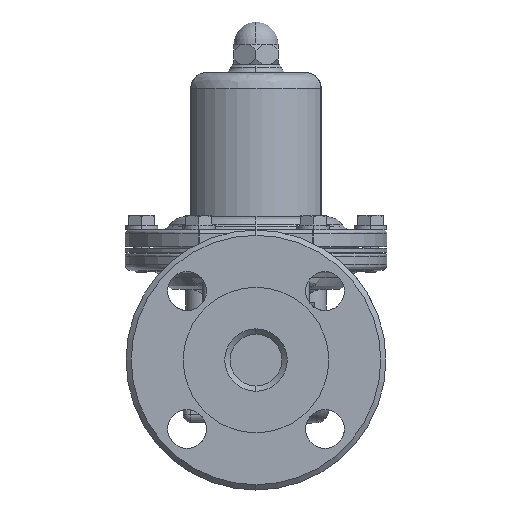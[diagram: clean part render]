
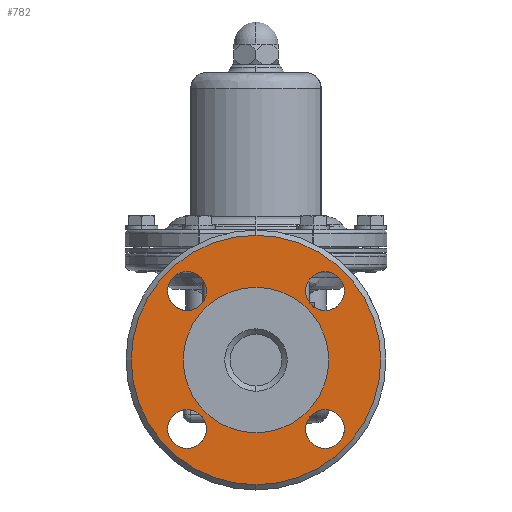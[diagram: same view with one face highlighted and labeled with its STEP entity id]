
A CAD part, left-side view. The second image highlights one B-rep face of the part: STEP entity #782.
In plain terms, the highlighted planar face has unit normal (-1, 0, 0).
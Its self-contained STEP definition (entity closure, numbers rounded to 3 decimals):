
#782=ADVANCED_FACE('',(#4565,#4566,#4567,#4568,#4569,#4570),#4564,.F.);
#4564=PLANE('',#10744);
#4565=FACE_OUTER_BOUND('',#10745,.T.);
#4566=FACE_BOUND('',#10746,.T.);
#4567=FACE_BOUND('',#10747,.T.);
#4568=FACE_BOUND('',#10748,.T.);
#4569=FACE_BOUND('',#10749,.T.);
#4570=FACE_BOUND('',#10750,.T.);
#10741=CARTESIAN_POINT('',(-82.,-93.138,58.));
#10742=DIRECTION('',(1.,0.,0.));
#10743=DIRECTION('',(0.,0.,-1.));
#10744=AXIS2_PLACEMENT_3D('',#10741,#10742,#10743);
#10745=EDGE_LOOP('',(#14886,#14887));
#10746=EDGE_LOOP('',(#14888,#14889));
#10747=EDGE_LOOP('',(#14890,#14891));
#10748=EDGE_LOOP('',(#14892,#14893));
#10749=EDGE_LOOP('',(#14894,#14895));
#10750=EDGE_LOOP('',(#14896,#14897));
#14886=ORIENTED_EDGE('',*,*,#17143,.T.);
#14887=ORIENTED_EDGE('',*,*,#17144,.T.);
#14888=ORIENTED_EDGE('',*,*,#17145,.F.);
#14889=ORIENTED_EDGE('',*,*,#17146,.F.);
#14890=ORIENTED_EDGE('',*,*,#17147,.F.);
#14891=ORIENTED_EDGE('',*,*,#17148,.F.);
#14892=ORIENTED_EDGE('',*,*,#17149,.F.);
#14893=ORIENTED_EDGE('',*,*,#17150,.F.);
#14894=ORIENTED_EDGE('',*,*,#17151,.F.);
#14895=ORIENTED_EDGE('',*,*,#17152,.F.);
#14896=ORIENTED_EDGE('',*,*,#17153,.F.);
#14897=ORIENTED_EDGE('',*,*,#17154,.F.);
#17143=EDGE_CURVE('',#24323,#24324,#24325,.T.);
#17144=EDGE_CURVE('',#24324,#24323,#24331,.T.);
#17145=EDGE_CURVE('',#24337,#24338,#24339,.T.);
#17146=EDGE_CURVE('',#24338,#24337,#24345,.T.);
#17147=EDGE_CURVE('',#24351,#24352,#24353,.T.);
#17148=EDGE_CURVE('',#24352,#24351,#24359,.T.);
#17149=EDGE_CURVE('',#24365,#24366,#24367,.T.);
#17150=EDGE_CURVE('',#24366,#24365,#24373,.T.);
#17151=EDGE_CURVE('',#24379,#24380,#24381,.T.);
#17152=EDGE_CURVE('',#24380,#24379,#24387,.T.);
#17153=EDGE_CURVE('',#24393,#24394,#24395,.T.);
#17154=EDGE_CURVE('',#24394,#24393,#24401,.T.);
#24323=VERTEX_POINT('',#33929);
#24324=VERTEX_POINT('',#33930);
#24325=CIRCLE('',#33934,48.);
#24331=CIRCLE('',#33938,48.);
#24337=VERTEX_POINT('',#33939);
#24338=VERTEX_POINT('',#33940);
#24339=CIRCLE('',#33944,7.5);
#24345=CIRCLE('',#33948,7.5);
#24351=VERTEX_POINT('',#33949);
#24352=VERTEX_POINT('',#33950);
#24353=CIRCLE('',#33954,7.5);
#24359=CIRCLE('',#33958,7.5);
#24365=VERTEX_POINT('',#33959);
#24366=VERTEX_POINT('',#33960);
#24367=CIRCLE('',#33964,7.5);
#24373=CIRCLE('',#33968,7.5);
#24379=VERTEX_POINT('',#33969);
#24380=VERTEX_POINT('',#33970);
#24381=CIRCLE('',#33974,28.);
#24387=CIRCLE('',#33978,28.);
#24393=VERTEX_POINT('',#33979);
#24394=VERTEX_POINT('',#33980);
#24395=(BOUNDED_CURVE() B_SPLINE_CURVE(2,(#33981,#33982,#33983,#33984,#33985),.UNSPECIFIED.,.F.,.F.) B_SPLINE_CURVE_WITH_KNOTS((3,2,3),(0.,0.5,1.),.UNSPECIFIED.) CURVE() GEOMETRIC_REPRESENTATION_ITEM() RATIONAL_B_SPLINE_CURVE((1.,0.707,1.,0.707,1.)) REPRESENTATION_ITEM('') );
#24401=(BOUNDED_CURVE() B_SPLINE_CURVE(2,(#33986,#33987,#33988,#33989,#33990),.UNSPECIFIED.,.F.,.F.) B_SPLINE_CURVE_WITH_KNOTS((3,2,3),(0.,0.5,1.),.UNSPECIFIED.) CURVE() GEOMETRIC_REPRESENTATION_ITEM() RATIONAL_B_SPLINE_CURVE((1.,0.707,1.,0.707,1.)) REPRESENTATION_ITEM('') );
#33929=CARTESIAN_POINT('',(-82.,0.,48.));
#33930=CARTESIAN_POINT('',(-82.,0.,-48.));
#33931=CARTESIAN_POINT('',(-82.,0.,0.));
#33932=DIRECTION('',(-1.,0.,0.));
#33933=DIRECTION('',(0.,0.,1.));
#33934=AXIS2_PLACEMENT_3D('',#33931,#33932,#33933);
#33935=CARTESIAN_POINT('',(-82.,0.,0.));
#33936=DIRECTION('',(-1.,0.,0.));
#33937=DIRECTION('',(0.,0.,1.));
#33938=AXIS2_PLACEMENT_3D('',#33935,#33936,#33937);
#33939=CARTESIAN_POINT('',(-82.,26.516,-19.016));
#33940=CARTESIAN_POINT('',(-82.,26.516,-34.016));
#33941=CARTESIAN_POINT('',(-82.,26.516,-26.516));
#33942=DIRECTION('',(-1.,0.,0.));
#33943=DIRECTION('',(0.,0.,-1.));
#33944=AXIS2_PLACEMENT_3D('',#33941,#33942,#33943);
#33945=CARTESIAN_POINT('',(-82.,26.516,-26.516));
#33946=DIRECTION('',(-1.,0.,0.));
#33947=DIRECTION('',(0.,0.,-1.));
#33948=AXIS2_PLACEMENT_3D('',#33945,#33946,#33947);
#33949=CARTESIAN_POINT('',(-82.,-26.521,-19.016));
#33950=CARTESIAN_POINT('',(-82.,-26.517,-34.016));
#33951=CARTESIAN_POINT('',(-82.,-26.517,-26.516));
#33952=DIRECTION('',(-1.,0.,0.));
#33953=DIRECTION('',(0.,0.,-1.));
#33954=AXIS2_PLACEMENT_3D('',#33951,#33952,#33953);
#33955=CARTESIAN_POINT('',(-82.,-26.517,-26.516));
#33956=DIRECTION('',(-1.,0.,0.));
#33957=DIRECTION('',(0.,0.,-1.));
#33958=AXIS2_PLACEMENT_3D('',#33955,#33956,#33957);
#33959=CARTESIAN_POINT('',(-82.,-26.521,34.017));
#33960=CARTESIAN_POINT('',(-82.,-26.517,19.017));
#33961=CARTESIAN_POINT('',(-82.,-26.517,26.517));
#33962=DIRECTION('',(-1.,0.,0.));
#33963=DIRECTION('',(0.,0.,-1.));
#33964=AXIS2_PLACEMENT_3D('',#33961,#33962,#33963);
#33965=CARTESIAN_POINT('',(-82.,-26.517,26.517));
#33966=DIRECTION('',(-1.,0.,0.));
#33967=DIRECTION('',(0.,0.,-1.));
#33968=AXIS2_PLACEMENT_3D('',#33965,#33966,#33967);
#33969=CARTESIAN_POINT('',(-82.,0.,-28.));
#33970=CARTESIAN_POINT('',(-82.,0.,28.));
#33971=CARTESIAN_POINT('',(-82.,0.,0.));
#33972=DIRECTION('',(-1.,0.,0.));
#33973=DIRECTION('',(0.,0.,1.));
#33974=AXIS2_PLACEMENT_3D('',#33971,#33972,#33973);
#33975=CARTESIAN_POINT('',(-82.,0.,0.));
#33976=DIRECTION('',(-1.,0.,0.));
#33977=DIRECTION('',(0.,0.,1.));
#33978=AXIS2_PLACEMENT_3D('',#33975,#33976,#33977);
#33979=CARTESIAN_POINT('',(-82.,26.511,34.017));
#33980=CARTESIAN_POINT('',(-82.,26.522,19.017));
#33981=CARTESIAN_POINT('',(-82.,26.511,34.017));
#33982=CARTESIAN_POINT('',(-82.,34.014,34.022));
#33983=CARTESIAN_POINT('',(-82.,34.016,26.519));
#33984=CARTESIAN_POINT('',(-82.,34.019,19.017));
#33985=CARTESIAN_POINT('',(-82.,26.522,19.017));
#33986=CARTESIAN_POINT('',(-82.,26.522,19.017));
#33987=CARTESIAN_POINT('',(-82.,19.019,19.017));
#33988=CARTESIAN_POINT('',(-82.,19.016,26.514));
#33989=CARTESIAN_POINT('',(-82.,19.014,34.012));
#33990=CARTESIAN_POINT('',(-82.,26.511,34.017));
